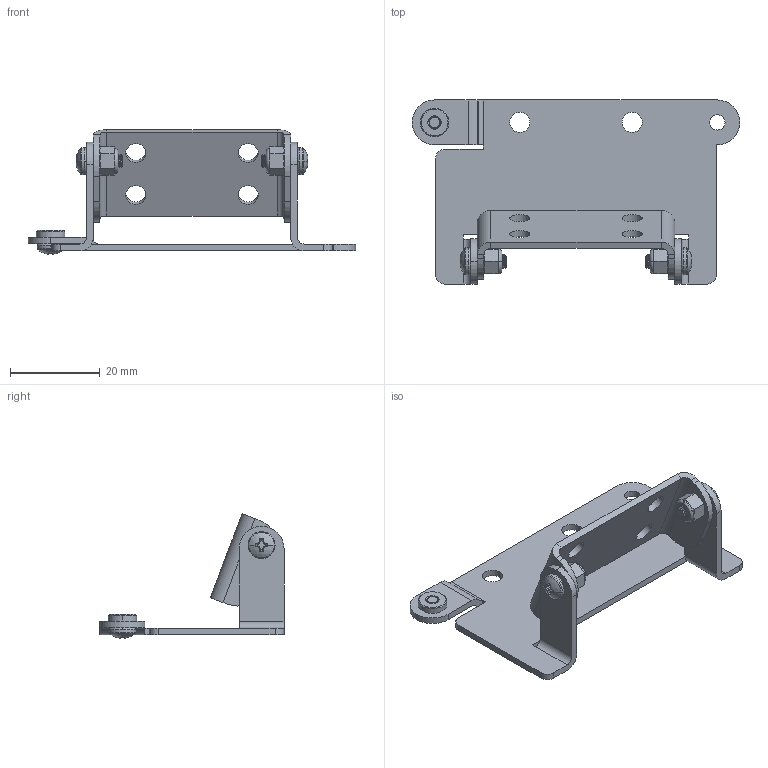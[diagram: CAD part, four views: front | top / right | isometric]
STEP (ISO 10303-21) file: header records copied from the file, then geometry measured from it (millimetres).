
FILE_DESCRIPTION (( 'STEP AP214' ), '1' );
FILE_NAME ('BKT0025_R3.step', '2018-05-03T12:07:09', ( '' ), ( '' ), 'SwSTEP 2.0', 'SolidWorks 2018', '' );
FILE_SCHEMA (( 'AUTOMOTIVE_DESIGN' ));
Length unit declared in the file: millimetre
Products named in the file (7): BRKT-00564-02-R1_R2; PEM-M3-0ZI; BRKT-00564-01-R1; BKT0025_R3; 92005A111_METRIC PAN HEAD PHILLIPS MACHINE SCREW_92005A111; 92005A118_METRIC PAN HEAD PHILLIPS MACHINE SCREW_92005A118; 90576A102_ZINC-PLATED CLASS 8 STL NYLON-INSERT LOCKNUT_90576A102
Assembly tree (8 placements, depth 2):
  BKT0025_R3
    BRKT-00564-01-R1
    BRKT-00564-02-R1_R2
    PEM-M3-0ZI
    92005A111_METRIC PAN HEAD PHILLIPS MACHINE SCREW_92005A111
    92005A118_METRIC PAN HEAD PHILLIPS MACHINE SCREW_92005A118  x2
    90576A102_ZINC-PLATED CLASS 8 STL NYLON-INSERT LOCKNUT_90576A102  x2
Bounding box: 73 x 41 x 27.75 mm (x, y, z)
Volume: 5819.1 mm3; surface area: 9247.8 mm2
Topology: 10 solids, 10 shells, 616 faces, 1589 edges, 1002 vertices
Faces by surface type: cylinder 324, plane 127, cone 126, torus 24, bspline 9, sphere 6
Entity records: 15226 total; most frequent: CARTESIAN_POINT 5710, ORIENTED_EDGE 2066, DIRECTION 1825, EDGE_CURVE 1033, AXIS2_PLACEMENT_3D 712, VERTEX_POINT 655, EDGE_LOOP 434, LINE 401
